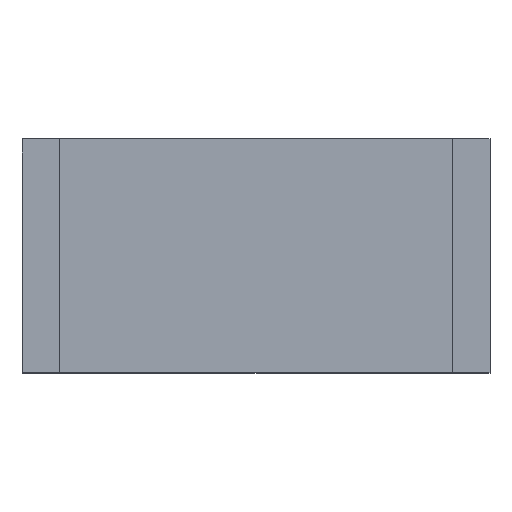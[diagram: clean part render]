
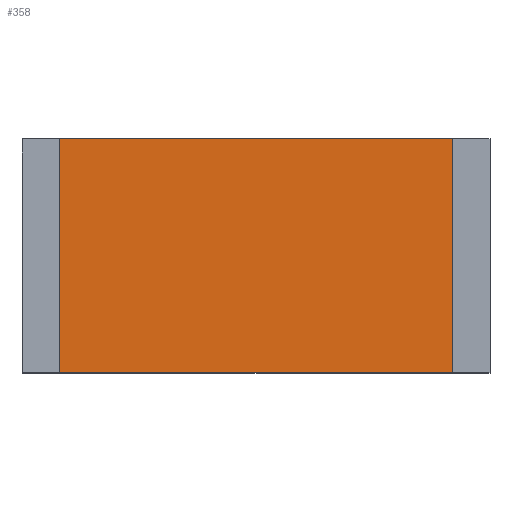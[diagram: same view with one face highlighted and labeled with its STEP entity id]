
A CAD part, top view. The second image highlights one B-rep face of the part: STEP entity #358.
In plain terms, the highlighted planar face has unit normal (0, 0, 1).
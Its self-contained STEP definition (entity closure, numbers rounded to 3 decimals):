
#358=ADVANCED_FACE('',(#586),#588,.T.);
#586=FACE_BOUND('',#587,.T.);
#587=EDGE_LOOP('',(#736,#737,#738,#739));
#588=PLANE('',#589);
#589=AXIS2_PLACEMENT_3D('',#590,#591,#592);
#590=CARTESIAN_POINT('',(0.,0.,0.69));
#591=DIRECTION('',(0.,0.,1.));
#592=DIRECTION('',(-1.,0.,0.));
#736=ORIENTED_EDGE('',*,*,#806,.T.);
#737=ORIENTED_EDGE('',*,*,#810,.T.);
#738=ORIENTED_EDGE('',*,*,#813,.T.);
#739=ORIENTED_EDGE('',*,*,#815,.T.);
#806=EDGE_CURVE('',#921,#919,#922,.T.);
#810=EDGE_CURVE('',#919,#926,#928,.T.);
#813=EDGE_CURVE('',#926,#931,#933,.T.);
#815=EDGE_CURVE('',#931,#921,#935,.T.);
#919=VERTEX_POINT('',#1161);
#921=VERTEX_POINT('',#1165);
#922=LINE('',#1166,#1167);
#926=VERTEX_POINT('',#1176);
#928=LINE('',#1180,#1181);
#931=VERTEX_POINT('',#1187);
#933=LINE('',#1191,#1192);
#935=LINE('',#1197,#1198);
#1161=CARTESIAN_POINT('',(-2.1,1.25,0.69));
#1165=CARTESIAN_POINT('',(2.1,1.25,0.69));
#1166=CARTESIAN_POINT('',(2.1,1.25,0.69));
#1167=VECTOR('',#1168,1.);
#1168=DIRECTION('',(-1.,0.,0.));
#1176=CARTESIAN_POINT('',(-2.1,-1.25,0.69));
#1180=CARTESIAN_POINT('',(-2.1,1.25,0.69));
#1181=VECTOR('',#1182,1.);
#1182=DIRECTION('',(0.,-1.,0.));
#1187=CARTESIAN_POINT('',(2.1,-1.25,0.69));
#1191=CARTESIAN_POINT('',(-2.1,-1.25,0.69));
#1192=VECTOR('',#1193,1.);
#1193=DIRECTION('',(1.,0.,0.));
#1197=CARTESIAN_POINT('',(2.1,-1.25,0.69));
#1198=VECTOR('',#1199,1.);
#1199=DIRECTION('',(0.,1.,0.));
